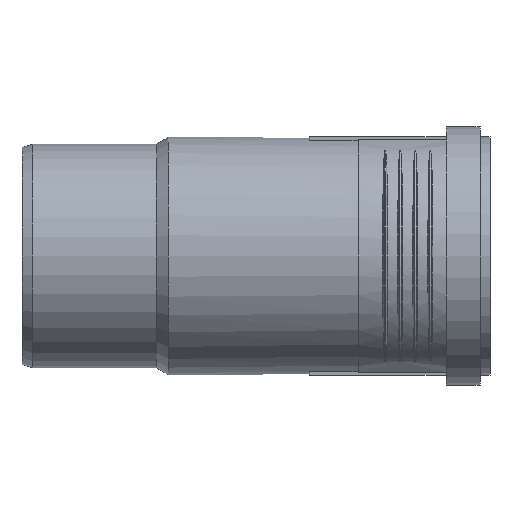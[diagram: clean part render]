
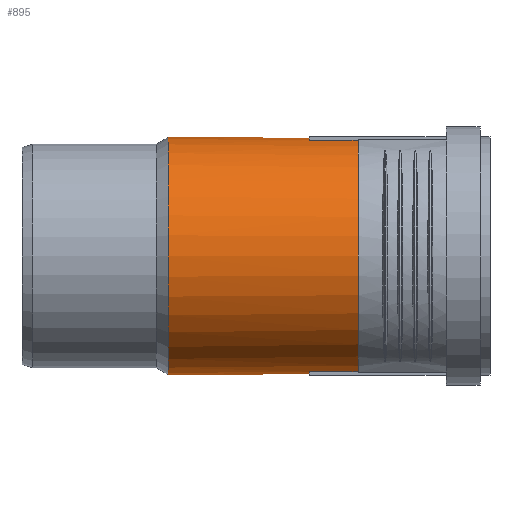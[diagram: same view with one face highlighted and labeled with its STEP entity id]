
A CAD part, front view. The second image highlights one B-rep face of the part: STEP entity #895.
In plain terms, the highlighted cylindrical face has radius 67.1 mm (diameter 134.2 mm), a full revolution.
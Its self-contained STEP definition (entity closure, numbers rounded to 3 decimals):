
#86=LINE($,#1239,#114);
#95=LINE($,#1259,#123);
#104=LINE($,#2137,#132);
#110=LINE($,#2150,#138);
#114=VECTOR($,#1024,27.56);
#123=VECTOR($,#1039,27.56);
#132=VECTOR($,#1072,27.56);
#138=VECTOR($,#1084,27.56);
#143=CYLINDRICAL_SURFACE($,#980,67.1);
#181=FACE_BOUND($,#298,.T.);
#234=FACE_OUTER_BOUND($,#297,.T.);
#297=EDGE_LOOP($,(#763,#764,#765,#766,#767,#768,#769,#770));
#298=EDGE_LOOP($,(#771));
#326=CIRCLE($,#920,67.1);
#332=CIRCLE($,#932,67.1);
#333=CIRCLE($,#935,67.1);
#350=CIRCLE($,#979,67.1);
#351=CIRCLE($,#981,67.1);
#368=VERTEX_POINT($,#1236);
#369=VERTEX_POINT($,#1238);
#372=VERTEX_POINT($,#1246);
#377=VERTEX_POINT($,#1258);
#433=VERTEX_POINT($,#2132);
#434=VERTEX_POINT($,#2136);
#436=VERTEX_POINT($,#2142);
#438=VERTEX_POINT($,#2149);
#439=VERTEX_POINT($,#2194);
#456=EDGE_CURVE($,#369,#368,#86,.T.);
#460=EDGE_CURVE($,#372,#369,#326,.T.);
#466=EDGE_CURVE($,#377,#372,#95,.T.);
#527=EDGE_CURVE($,#377,#433,#332,.T.);
#529=EDGE_CURVE($,#434,#433,#104,.T.);
#532=EDGE_CURVE($,#436,#434,#333,.T.);
#536=EDGE_CURVE($,#438,#436,#110,.T.);
#554=EDGE_CURVE($,#439,#439,#350,.T.);
#555=EDGE_CURVE($,#438,#368,#351,.T.);
#763=ORIENTED_EDGE($,*,*,#456,.T.);
#764=ORIENTED_EDGE($,*,*,#555,.F.);
#765=ORIENTED_EDGE($,*,*,#536,.T.);
#766=ORIENTED_EDGE($,*,*,#532,.T.);
#767=ORIENTED_EDGE($,*,*,#529,.T.);
#768=ORIENTED_EDGE($,*,*,#527,.F.);
#769=ORIENTED_EDGE($,*,*,#466,.T.);
#770=ORIENTED_EDGE($,*,*,#460,.T.);
#771=ORIENTED_EDGE($,*,*,#554,.T.);
#895=ADVANCED_FACE($,(#234,#181),#143,.T.);
#920=AXIS2_PLACEMENT_3D($,#1247,#1030,#1031);
#932=AXIS2_PLACEMENT_3D($,#2133,#1067,#1068);
#935=AXIS2_PLACEMENT_3D($,#2143,#1077,#1078);
#979=AXIS2_PLACEMENT_3D($,#2195,#1170,#1171);
#980=AXIS2_PLACEMENT_3D($,#2196,#1172,#1173);
#981=AXIS2_PLACEMENT_3D($,#2197,#1174,#1175);
#1024=DIRECTION($,(1.,0.,0.));
#1030=DIRECTION('center_axis',(-1.,0.,0.));
#1031=DIRECTION('ref_axis',(0.,1.,0.));
#1039=DIRECTION($,(-1.,0.,0.));
#1067=DIRECTION('center_axis',(1.,0.,0.));
#1068=DIRECTION('ref_axis',(0.,1.,0.));
#1072=DIRECTION($,(1.,0.,0.));
#1077=DIRECTION('center_axis',(-1.,0.,0.));
#1078=DIRECTION('ref_axis',(0.,1.,0.));
#1084=DIRECTION($,(-1.,0.,0.));
#1170=DIRECTION('center_axis',(1.,0.,0.));
#1171=DIRECTION('ref_axis',(0.,1.,0.));
#1172=DIRECTION('center_axis',(1.,0.,0.));
#1173=DIRECTION('ref_axis',(0.,1.,0.));
#1174=DIRECTION('center_axis',(1.,0.,0.));
#1175=DIRECTION('ref_axis',(0.,1.,0.));
#1236=CARTESIAN_POINT('',(189.95,15.,65.402));
#1238=CARTESIAN_POINT('',(162.39,15.,65.402));
#1239=CARTESIAN_POINT($,(136.322,15.,65.402));
#1246=CARTESIAN_POINT('',(162.39,-15.,65.402));
#1247=CARTESIAN_POINT('Origin',(162.39,0.,0.));
#1258=CARTESIAN_POINT('',(189.95,-15.,65.402));
#1259=CARTESIAN_POINT($,(136.322,-15.,65.402));
#2132=CARTESIAN_POINT('',(189.95,-15.,-65.402));
#2133=CARTESIAN_POINT('Origin',(189.95,0.,0.));
#2136=CARTESIAN_POINT('',(162.39,-15.,-65.402));
#2137=CARTESIAN_POINT($,(136.322,-15.,-65.402));
#2142=CARTESIAN_POINT('',(162.39,15.,-65.402));
#2143=CARTESIAN_POINT('Origin',(162.39,0.,0.));
#2149=CARTESIAN_POINT('',(189.95,15.,-65.402));
#2150=CARTESIAN_POINT($,(136.322,15.,-65.402));
#2194=CARTESIAN_POINT('',(82.694,67.1,0.));
#2195=CARTESIAN_POINT('Origin',(82.694,0.,0.));
#2196=CARTESIAN_POINT('Origin',(136.322,0.,0.));
#2197=CARTESIAN_POINT('Origin',(189.95,0.,0.));
